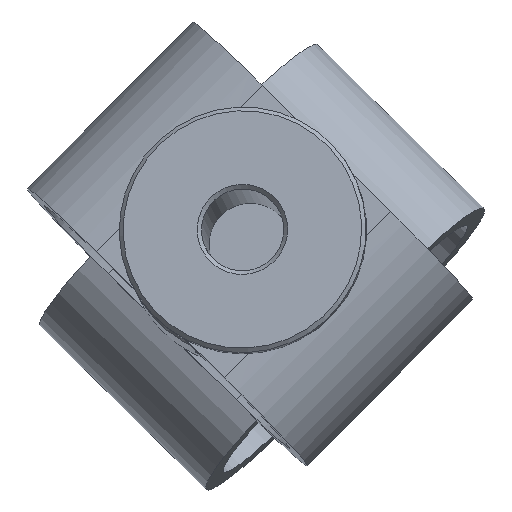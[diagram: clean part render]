
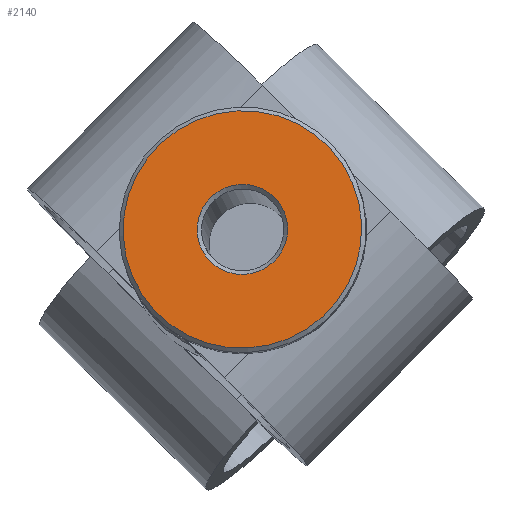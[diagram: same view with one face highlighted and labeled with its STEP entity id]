
A CAD part, top view. The second image highlights one B-rep face of the part: STEP entity #2140.
In plain terms, the highlighted planar face has unit normal (-0.06, 0.114, 0.992).
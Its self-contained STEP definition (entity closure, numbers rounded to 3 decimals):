
#407=PLANE('',#2367);
#459=FACE_BOUND('',#773,.T.);
#592=FACE_OUTER_BOUND('',#772,.T.);
#772=EDGE_LOOP('',(#1812));
#773=EDGE_LOOP('',(#1813));
#931=CIRCLE('',#2366,14.5);
#932=CIRCLE('',#2368,5.5);
#1099=VERTEX_POINT('',#3845);
#1100=VERTEX_POINT('',#3848);
#1359=EDGE_CURVE('',#1099,#1099,#931,.T.);
#1360=EDGE_CURVE('',#1100,#1100,#932,.T.);
#1812=ORIENTED_EDGE('',*,*,#1359,.F.);
#1813=ORIENTED_EDGE('',*,*,#1360,.F.);
#2140=ADVANCED_FACE('',(#592,#459),#407,.T.);
#2366=AXIS2_PLACEMENT_3D('',#3846,#2915,#2916);
#2367=AXIS2_PLACEMENT_3D('',#3847,#2917,#2918);
#2368=AXIS2_PLACEMENT_3D('',#3849,#2919,#2920);
#2915=DIRECTION('center_axis',(0.061,-0.114,-0.992));
#2916=DIRECTION('ref_axis',(-0.952,0.291,-0.091));
#2917=DIRECTION('center_axis',(-0.061,0.114,0.992));
#2918=DIRECTION('ref_axis',(-0.952,0.291,-0.091));
#2919=DIRECTION('center_axis',(-0.061,0.114,0.992));
#2920=DIRECTION('ref_axis',(0.952,-0.291,0.091));
#3845=CARTESIAN_POINT('',(-98.433,47.031,-3.551));
#3846=CARTESIAN_POINT('Origin',(-112.243,51.246,-4.877));
#3847=CARTESIAN_POINT('Origin',(-112.243,51.246,-4.877));
#3848=CARTESIAN_POINT('',(-117.482,52.845,-5.38));
#3849=CARTESIAN_POINT('Origin',(-112.243,51.246,-4.877));
